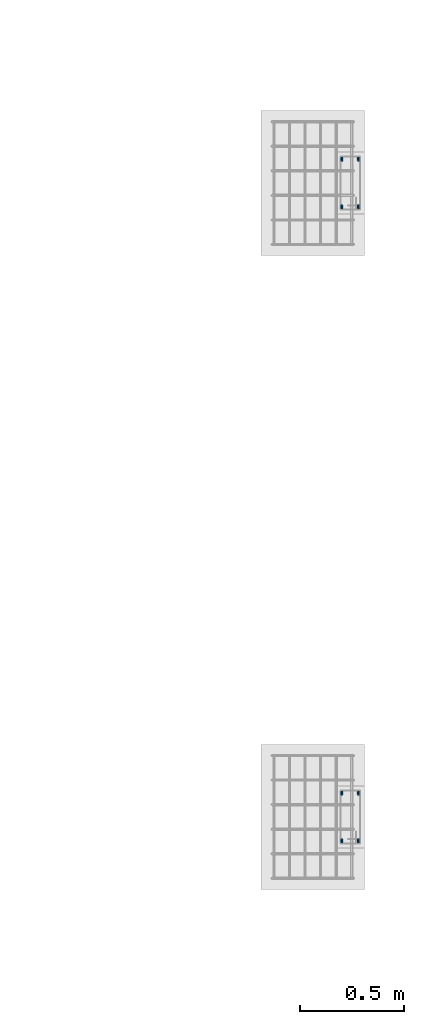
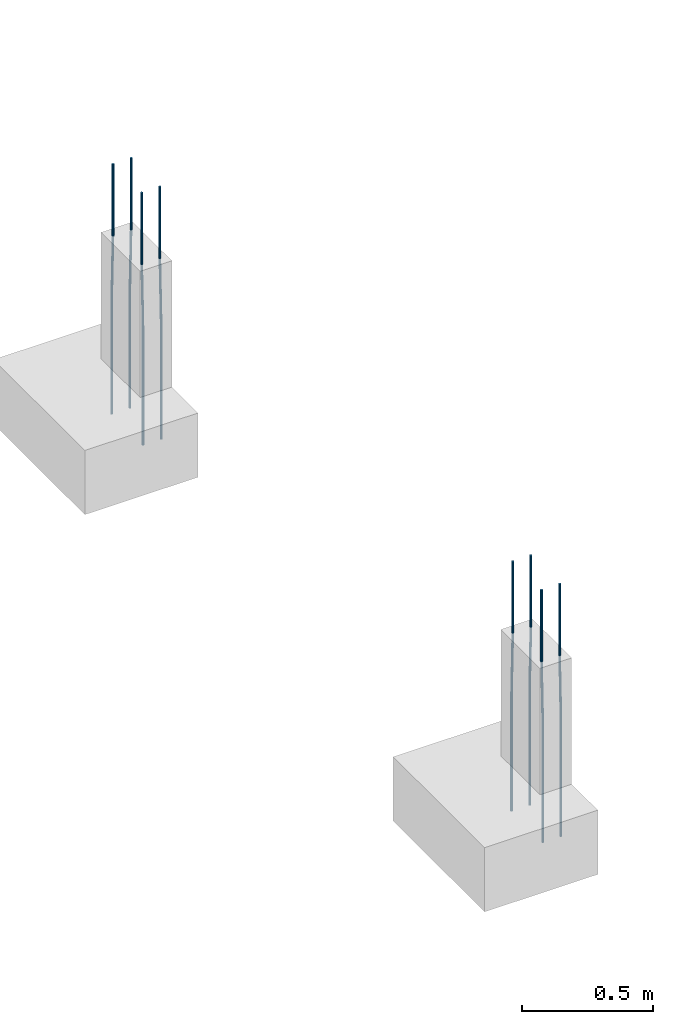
# One storey, part 39 of 119: 8 reinforcing bars.
"""IFC4 building model written with IfcOpenShell, lengths in centimetres."""

from ifc_helpers import new_model, entity, si_unit, derived_unit, frame, origin_with_axes, place, context, project, spatial, element, save


model = new_model("IFC4")

# Units and contexts
model_context = context("Model", 3, precision=1e-05, world=origin_with_axes(), identifier="Body")
ifc_project = project(units=[si_unit("LENGTHUNIT", "METRE", prefix="CENTI"), si_unit("VOLUMEUNIT", "CUBIC_METRE"), si_unit("AREAUNIT", "SQUARE_METRE"), si_unit("POWERUNIT", "WATT"), si_unit("LUMINOUSFLUXUNIT", "LUMEN"), si_unit("ELECTRICCURRENTUNIT", "AMPERE"), si_unit("PRESSUREUNIT", "PASCAL", prefix="KILO"), si_unit("MASSUNIT", "GRAM", prefix="KILO"), si_unit("PLANEANGLEUNIT", "RADIAN"), derived_unit("VOLUMETRICFLOWRATEUNIT", [(si_unit("LENGTHUNIT", "METRE"), 3), (si_unit("TIMEUNIT", "SECOND"), -1)])], contexts=[model_context])

# Site, building, storey
site_placement = place(None, frame((-4000.0, 0.0, 0.0), z_axis=(0.0, 0.0, 1.0), x_axis=(1.0, 0.0, 0.0)))
site = spatial("IfcSite", under=ifc_project, at=site_placement, Name="PADRÃO")
building_placement = place(site_placement, frame((0.0, 0.0, -14.0)))
building = spatial("IfcBuilding", under=site, at=building_placement, Name="CRECHE PRÉ-ESCOLA TIPO 2")
storey_placement = place(building_placement, origin_with_axes())
storey = spatial("IfcBuildingStorey", under=building, at=storey_placement, Name="FUNDAÇÃO", CompositionType="ELEMENT", Elevation=-14.0)

# Reinforcing bars
reinforcing_bar_1_placement = place(storey_placement, frame((3989.0, 1163.61, 33.3573001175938), z_axis=(0.0, 0.0, 1.0), x_axis=(1.0, 0.0, 0.0)))
element("IfcReinforcingBar", 1, at=reinforcing_bar_1_placement, inside=storey, Name="P115 - Longitudinal", BarLength=0.0, CrossSectionArea=7.853981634e-05, NominalDiameter=1.0, PredefinedType="MAIN", context=model_context, shape_type="AdvancedSweptSolid", body=[
    entity("IfcSweptDiskSolid", entity("IfcCompositeCurve", [entity("IfcCompositeCurveSegment", "CONTINUOUS", True, entity("IfcPolyline", [entity("IfcCartesianPoint", [0.0, 0.5, -117.357300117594]), entity("IfcCartesianPoint", [0.0, 0.5, -63.3573001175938])])), entity("IfcCompositeCurveSegment", "CONTINUOUS", True, entity("IfcPolyline", [entity("IfcCartesianPoint", [0.0, 0.5, -63.3573001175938]), entity("IfcCartesianPoint", [0.0, -0.5, -33.3573001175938])])), entity("IfcCompositeCurveSegment", "CONTINUOUS", True, entity("IfcPolyline", [entity("IfcCartesianPoint", [0.0, -0.5, -33.3573001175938]), entity("IfcCartesianPoint", [0.0, -0.5, 0.0])]))], False), 0.5),
])
reinforcing_bar_2_placement = place(storey_placement, frame((3997.0, 1140.61, 33.3573001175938), z_axis=(0.0, 0.0, 1.0), x_axis=(1.0, 0.0, 0.0)))
element("IfcReinforcingBar", 2, at=reinforcing_bar_2_placement, inside=storey, Name="P115 - Longitudinal", BarLength=0.0, CrossSectionArea=7.853981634e-05, NominalDiameter=1.0, PredefinedType="MAIN", context=model_context, shape_type="AdvancedSweptSolid", body=[
    entity("IfcSweptDiskSolid", entity("IfcCompositeCurve", [entity("IfcCompositeCurveSegment", "CONTINUOUS", True, entity("IfcPolyline", [entity("IfcCartesianPoint", [0.0, -0.5, -117.357300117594]), entity("IfcCartesianPoint", [0.0, -0.5, -63.3573001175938])])), entity("IfcCompositeCurveSegment", "CONTINUOUS", True, entity("IfcPolyline", [entity("IfcCartesianPoint", [0.0, -0.5, -63.3573001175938]), entity("IfcCartesianPoint", [0.0, 0.5, -33.3573001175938])])), entity("IfcCompositeCurveSegment", "CONTINUOUS", True, entity("IfcPolyline", [entity("IfcCartesianPoint", [0.0, 0.5, -33.3573001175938]), entity("IfcCartesianPoint", [0.0, 0.5, 0.0])]))], False), 0.5),
])
reinforcing_bar_3_placement = place(storey_placement, frame((3997.0, 1163.61, 33.3573001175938), z_axis=(0.0, 0.0, 1.0), x_axis=(1.0, 0.0, 0.0)))
element("IfcReinforcingBar", 3, at=reinforcing_bar_3_placement, inside=storey, Name="P115 - Longitudinal", BarLength=0.0, CrossSectionArea=7.853981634e-05, NominalDiameter=1.0, PredefinedType="MAIN", context=model_context, shape_type="AdvancedSweptSolid", body=[
    entity("IfcSweptDiskSolid", entity("IfcCompositeCurve", [entity("IfcCompositeCurveSegment", "CONTINUOUS", True, entity("IfcPolyline", [entity("IfcCartesianPoint", [0.0, 0.5, -117.357300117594]), entity("IfcCartesianPoint", [0.0, 0.5, -63.3573001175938])])), entity("IfcCompositeCurveSegment", "CONTINUOUS", True, entity("IfcPolyline", [entity("IfcCartesianPoint", [0.0, 0.5, -63.3573001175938]), entity("IfcCartesianPoint", [0.0, -0.5, -33.3573001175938])])), entity("IfcCompositeCurveSegment", "CONTINUOUS", True, entity("IfcPolyline", [entity("IfcCartesianPoint", [0.0, -0.5, -33.3573001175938]), entity("IfcCartesianPoint", [0.0, -0.5, 0.0])]))], False), 0.5),
])
for number, where, z_axis, x_axis, name in (
    (4, (3989.0, 1140.61, 33.3573001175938), (0.0, 0.0, 1.0), (1.0, 0.0, 0.0), "P115 - Longitudinal"),
    (5, (3989.0, 834.61, 33.3573001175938), (0.0, 0.0, 1.0), (1.0, 0.0, 0.0), "P130 - Longitudinal"),
    (6, (3997.0, 834.61, 33.3573001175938), (0.0, 0.0, 1.0), (1.0, 0.0, 0.0), "P130 - Longitudinal"),
):
    element("IfcReinforcingBar", number, at=place(storey_placement, frame(where, z_axis=z_axis, x_axis=x_axis)), inside=storey, Name=name, BarLength=0.0, CrossSectionArea=7.853981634e-05, NominalDiameter=1.0, PredefinedType="MAIN", context=model_context, shape_type="AdvancedSweptSolid", body=[
        entity("IfcSweptDiskSolid", entity("IfcCompositeCurve", [entity("IfcCompositeCurveSegment", "CONTINUOUS", True, entity("IfcPolyline", [entity("IfcCartesianPoint", [0.0, -0.5, -117.357300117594]), entity("IfcCartesianPoint", [0.0, -0.5, -63.3573001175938])])), entity("IfcCompositeCurveSegment", "CONTINUOUS", True, entity("IfcPolyline", [entity("IfcCartesianPoint", [0.0, -0.5, -63.3573001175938]), entity("IfcCartesianPoint", [0.0, 0.5, -33.3573001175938])])), entity("IfcCompositeCurveSegment", "CONTINUOUS", True, entity("IfcPolyline", [entity("IfcCartesianPoint", [0.0, 0.5, -33.3573001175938]), entity("IfcCartesianPoint", [0.0, 0.5, 0.0])]))], False), 0.5),
    ])
for number, where, z_axis, x_axis, name in (
    (7, (3997.0, 857.61, 33.3573001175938), (0.0, 0.0, 1.0), (1.0, 0.0, 0.0), "P130 - Longitudinal"),
    (8, (3989.0, 857.61, 33.3573001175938), (0.0, 0.0, 1.0), (1.0, 0.0, 0.0), "P130 - Longitudinal"),
):
    element("IfcReinforcingBar", number, at=place(storey_placement, frame(where, z_axis=z_axis, x_axis=x_axis)), inside=storey, Name=name, BarLength=0.0, CrossSectionArea=7.853981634e-05, NominalDiameter=1.0, PredefinedType="MAIN", context=model_context, shape_type="AdvancedSweptSolid", body=[
        entity("IfcSweptDiskSolid", entity("IfcCompositeCurve", [entity("IfcCompositeCurveSegment", "CONTINUOUS", True, entity("IfcPolyline", [entity("IfcCartesianPoint", [0.0, 0.5, -117.357300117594]), entity("IfcCartesianPoint", [0.0, 0.5, -63.3573001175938])])), entity("IfcCompositeCurveSegment", "CONTINUOUS", True, entity("IfcPolyline", [entity("IfcCartesianPoint", [0.0, 0.5, -63.3573001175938]), entity("IfcCartesianPoint", [0.0, -0.5, -33.3573001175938])])), entity("IfcCompositeCurveSegment", "CONTINUOUS", True, entity("IfcPolyline", [entity("IfcCartesianPoint", [0.0, -0.5, -33.3573001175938]), entity("IfcCartesianPoint", [0.0, -0.5, 0.0])]))], False), 0.5),
    ])

save(model, "model.ifc")
